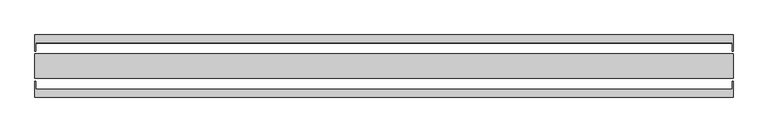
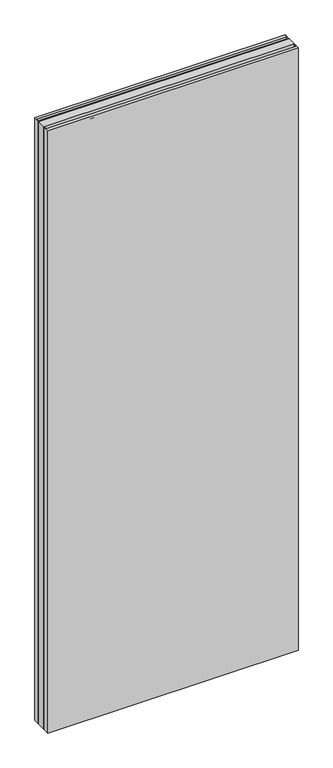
"""IFC4 building model written with IfcOpenShell, lengths in millimetres: plate geometry, 22_IM_VNS_wandpaneel_dicht : 22_IM_VNS_54_AA."""

import ifcopenshell
import ifcopenshell.guid

model = None  # the IFC model being written
_history = None  # IfcOwnerHistory: only IFC2X3 demands one
_inside = {}  # id of a spatial element -> (the spatial element, [elements in it])
_under = {}  # id of a project, library or spatial element -> (it, [spatial elements below it])
_declared = {}  # id of a project -> (the project, [libraries it declares])
_typed = {}  # id of a type object -> (the type object, [elements of that type])
_made_of = {}  # id of a material, layer set ... -> (it, [elements and type objects made of it])


def new_model(schema):
    """Start an empty IFC model of exactly this schema.

    Asked for "IFC4X3", IfcOpenShell would pick the latest addendum, in which some entities
    have other attributes; the version numbers below select the first issue.
    IFC2X3 requires an IfcOwnerHistory on every rooted entity: one is made here for all.
    """
    global model, _history
    if schema == "IFC4X3":
        model = ifcopenshell.file(schema_version=(4, 3, 0, 0))
    else:
        model = ifcopenshell.file(schema=schema)
    _inside.clear()
    _under.clear()
    _declared.clear()
    _typed.clear()
    _made_of.clear()
    _history = None
    if model.schema == "IFC2X3":
        org = make("IfcOrganization", Name="unknown")
        user = make(
            "IfcPersonAndOrganization",
            ThePerson=make("IfcPerson", FamilyName="unknown"),
            TheOrganization=org,
        )
        app = make(
            "IfcApplication",
            ApplicationDeveloper=org,
            Version="unknown",
            ApplicationFullName="unknown",
            ApplicationIdentifier="unknown",
        )
        _history = make(
            "IfcOwnerHistory",
            OwningUser=user,
            OwningApplication=app,
            ChangeAction="ADDED",
            CreationDate=0,
        )
    return model


def make(cls, **values):
    """One entity of the class cls with the attributes given. An attribute that is None is left unset."""
    return model.create_entity(
        cls, **{name: value for name, value in values.items() if value is not None}
    )


def rooted(cls, **values):
    """An entity with a GlobalId (a new one), such as an element, a storey or a relation."""
    return make(cls, GlobalId=ifcopenshell.guid.new(), OwnerHistory=_history, **values)


def si_unit(unit_type, name, prefix=None):
    """IfcSIUnit, for example si_unit("LENGTHUNIT", "METRE", prefix="MILLI")."""
    return make("IfcSIUnit", UnitType=unit_type, Prefix=prefix, Name=name)


def assignment(units):
    """IfcUnitAssignment: the units of a project."""
    return None if units is None else make("IfcUnitAssignment", Units=units)


def point(xyz):
    """IfcCartesianPoint."""
    return None if xyz is None else make("IfcCartesianPoint", Coordinates=xyz)


def direction(xyz):
    """IfcDirection."""
    return None if xyz is None else make("IfcDirection", DirectionRatios=xyz)


def frame(location, z_axis=None, x_axis=None):
    """IfcAxis2Placement3D, a coordinate frame: its origin and axes. An axis left out is left unset."""
    return make(
        "IfcAxis2Placement3D",
        Location=point(location),
        Axis=direction(z_axis),
        RefDirection=direction(x_axis),
    )


def origin():
    """The frame at (0, 0, 0) with its axes left unset."""
    return frame((0.0, 0.0, 0.0))


def origin_with_axes():
    """The frame at (0, 0, 0) with the z axis (0, 0, 1) and the x axis (1, 0, 0) written out."""
    return frame((0.0, 0.0, 0.0), z_axis=(0.0, 0.0, 1.0), x_axis=(1.0, 0.0, 0.0))


def place(relative_to, where):
    """IfcLocalPlacement: puts the frame where relative to a parent placement (None: the world)."""
    return make(
        "IfcLocalPlacement", PlacementRelTo=relative_to, RelativePlacement=where
    )


def context(
    kind, dimensions, precision=None, world=None, true_north=None, identifier=None
):
    """IfcGeometricRepresentationContext, for example the 3D "Model" context."""
    return make(
        "IfcGeometricRepresentationContext",
        ContextIdentifier=identifier,
        ContextType=kind,
        CoordinateSpaceDimension=dimensions,
        Precision=precision,
        WorldCoordinateSystem=world,
        TrueNorth=true_north,
    )


def project(units=None, contexts=None):
    """IfcProject with its units and contexts."""
    return rooted(
        "IfcProject",
        Name="project",
        RepresentationContexts=contexts,
        UnitsInContext=assignment(units),
    )


def spatial(cls, under=None, at=None, **own):
    """A site, building, storey or space (cls), placed at a placement, below another one or the project."""
    s = rooted(cls, ObjectPlacement=at, **own)
    if under is not None:
        _under.setdefault(under.id(), (under, []))[1].append(s)
    return s


def polyline(points):
    """IfcPolyline through the points."""
    return make("IfcPolyline", Points=[point(p) for p in points])


def outline(outer, holes=None, kind="AREA"):
    """IfcArbitraryClosedProfileDef: a profile drawn as a closed curve; with holes, ...WithVoids."""
    if holes is None:
        return make("IfcArbitraryClosedProfileDef", ProfileType=kind, OuterCurve=outer)
    return make(
        "IfcArbitraryProfileDefWithVoids",
        ProfileType=kind,
        OuterCurve=outer,
        InnerCurves=holes,
    )


def extrude(swept, where, along, depth):
    """IfcExtrudedAreaSolid: the profile swept, set in the frame where, extruded along a direction by depth."""
    return make(
        "IfcExtrudedAreaSolid",
        SweptArea=swept,
        Position=where,
        ExtrudedDirection=direction(along),
        Depth=depth,
    )


def faces_of(points, faces, orient=None, outer=None):
    """IfcFace entities. A face is a list of loops; a loop is a list of indices into points, from 0.

    orient and outer hold one flag for each loop. By default every Orientation is true, the
    first loop of a face is its IfcFaceOuterBound and the others are IfcFaceBound.
    """
    made = []
    for i, loops in enumerate(faces):
        bounds = []
        for j, loop in enumerate(loops):
            is_outer = j == 0 if outer is None else outer[i][j]
            bounds.append(
                make(
                    "IfcFaceOuterBound" if is_outer else "IfcFaceBound",
                    Bound=make("IfcPolyLoop", Polygon=[points[k] for k in loop]),
                    Orientation=True if orient is None else orient[i][j],
                )
            )
        made.append(make("IfcFace", Bounds=bounds))
    return made


def faceted_brep(points, faces, orient=None, outer=None, voids=None):
    """IfcFacetedBrep: a solid bounded by flat faces; with voids (closed shells), ...WithVoids."""
    shared = [point(p) for p in points]
    hull = make("IfcClosedShell", CfsFaces=faces_of(shared, faces, orient, outer))
    if voids is None:
        return make("IfcFacetedBrep", Outer=hull)
    return make(
        "IfcFacetedBrepWithVoids",
        Outer=hull,
        Voids=[
            make(cls, CfsFaces=faces_of(shared, fs, o, b)) for cls, fs, o, b in voids
        ],
    )


def shape(context_of_items, identifier, shape_type, items):
    """IfcShapeRepresentation: the items that make up one representation, for example the "Body"."""
    return make(
        "IfcShapeRepresentation",
        ContextOfItems=context_of_items,
        RepresentationIdentifier=identifier,
        RepresentationType=shape_type,
        Items=items,
    )


def source(mapping_origin, context_of_items, identifier, shape_type, items):
    """IfcRepresentationMap: a shape defined once, which mapped items show again and again."""
    return make(
        "IfcRepresentationMap",
        MappingOrigin=mapping_origin,
        MappedRepresentation=shape(context_of_items, identifier, shape_type, items),
    )


def transform(
    local_origin,
    x_axis=None,
    y_axis=None,
    z_axis=None,
    scale=None,
    scale2=None,
    scale3=None,
    uniform=True,
):
    """IfcCartesianTransformationOperator3D, or its non-uniform kind. x_axis, y_axis, z_axis: its Axis1, 2, 3."""
    if uniform:
        return make(
            "IfcCartesianTransformationOperator3D",
            Axis1=direction(x_axis),
            Axis2=direction(y_axis),
            LocalOrigin=point(local_origin),
            Scale=scale,
            Axis3=direction(z_axis),
        )
    return make(
        "IfcCartesianTransformationOperator3DnonUniform",
        Axis1=direction(x_axis),
        Axis2=direction(y_axis),
        LocalOrigin=point(local_origin),
        Scale=scale,
        Axis3=direction(z_axis),
        Scale2=scale2,
        Scale3=scale3,
    )


def mapped(mapping_source, mapping_target):
    """IfcMappedItem: shows the shape of a source again, moved by a transform."""
    return make(
        "IfcMappedItem", MappingSource=mapping_source, MappingTarget=mapping_target
    )


def made_of(thing, what):
    """Note that an element or type object is made of a material, layer set ...; save() writes the relation."""
    if what is not None:
        _made_of.setdefault(what.id(), (what, []))[1].append(thing)
    return thing


def element(
    cls,
    number,
    at=None,
    inside=None,
    cuts=None,
    type_object=None,
    material=None,
    context=None,
    identifier="Body",
    shape_type=None,
    held_by="IfcProductDefinitionShape",
    body=None,
    shapes=None,
    **own,
):
    """One element of the class cls, such as IfcWall. Its Tag is "e" and its number.

    at: its placement. inside: the storey or other place that contains it. cuts: it is an
    opening in that element (IfcRelVoidsElement). A single representation is given by context,
    identifier, shape_type and body (its items); several are given by shapes. held_by: the class
    of the entity that holds the representations. save() writes the other relations.
    """
    e = rooted(cls, Tag="e%d" % number, ObjectPlacement=at, **own)
    if body is not None:
        shapes = [shape(context, identifier, shape_type, body)]
    if shapes is not None:
        e.Representation = make(held_by, Representations=shapes)
    if inside is not None:
        _inside.setdefault(inside.id(), (inside, []))[1].append(e)
    if cuts is not None:
        rooted(
            "IfcRelVoidsElement", RelatingBuildingElement=cuts, RelatedOpeningElement=e
        )
    if type_object is not None:
        _typed.setdefault(type_object.id(), (type_object, []))[1].append(e)
    return made_of(e, material)


def aggregate(whole, parts):
    """IfcRelAggregates: a whole, such as a stair, and the parts it consists of."""
    return rooted("IfcRelAggregates", RelatingObject=whole, RelatedObjects=parts)


def save(model, path):
    """Write the relations noted so far, then the file.

    IfcRelAggregates (storeys below a building ...), IfcRelContainedInSpatialStructure (elements
    in a storey), IfcRelDefinesByType, IfcRelAssociatesMaterial and IfcRelDeclares: one each for
    every whole, place, type object, material and project.
    """
    for whole, parts in _under.values():
        aggregate(whole, parts)
    for where, things in _inside.values():
        rooted(
            "IfcRelContainedInSpatialStructure",
            RelatedElements=things,
            RelatingStructure=where,
        )
    for kind, things in _typed.values():
        rooted("IfcRelDefinesByType", RelatedObjects=things, RelatingType=kind)
    for what, things in _made_of.values():
        rooted("IfcRelAssociatesMaterial", RelatedObjects=things, RelatingMaterial=what)
    for by, libraries in _declared.values():
        rooted("IfcRelDeclares", RelatingContext=by, RelatedDefinitions=libraries)
    model.write(path)


def plate_4faec389(model_context):
    return source(origin(), model_context, "Body", "SolidModel", [
        faceted_brep([(-570.0, 24.5, 2902.0), (-569.0, 24.5, 2902.0), (-569.0, 38.0, 2902.0), (569.0, 38.0, 2902.0), (569.0, 24.5, 2902.0), (570.0, 24.5, 2902.0), (570.0, 51.0, 2902.0), (-570.0, 51.0, 2902.0), (-570.0, 51.0, 0.0), (570.0, 51.0, 0.0), (570.0, 24.5, 0.0), (569.0, 24.5, 0.0), (569.0, 38.0, 0.0), (-569.0, 38.0, 0.0), (-569.0, 24.5, 0.0), (-570.0, 24.5, 0.0), (-569.0, 38.0, 9.9865245), (-569.0, 39.0, 9.9865245), (-569.0, 39.0, 0.9865245), (-569.0, 50.0, 0.9865245), (-569.0, 50.0, 2901.0134755), (-569.0, 39.0, 2901.0134755), (-569.0, 39.0, 2892.0134755), (-569.0, 38.0, 2892.0134755), (569.0, 50.0, 0.9865245), (569.0, 50.0, 2901.0134755), (569.0, 38.0, 2892.0134755), (569.0, 39.0, 2892.0134755), (569.0, 39.0, 2901.0134755), (569.0, 39.0, 0.9865245), (569.0, 39.0, 9.9865245), (569.0, 38.0, 9.9865245)], [[[0, 1, 2, 3, 4, 5, 6, 7]], [[8, 9, 10, 11, 12, 13, 14, 15]], [[1, 0, 15, 14]], [[1, 14, 13, 16, 17, 18, 19, 20, 21, 22, 23, 2]], [[20, 19, 24, 25]], [[11, 4, 3, 26, 27, 28, 25, 24, 29, 30, 31, 12]], [[5, 4, 11, 10]], [[6, 5, 10, 9]], [[7, 6, 9, 8]], [[8, 15, 0, 7]], [[3, 2, 23, 26]], [[26, 23, 22, 27]], [[27, 22, 21, 28]], [[28, 21, 20, 25]], [[18, 29, 24, 19]], [[29, 18, 17, 30]], [[30, 17, 16, 31]], [[13, 12, 31, 16]]]),
        faceted_brep([(-570.0, -51.0, 2902.0), (570.0, -51.0, 2902.0), (570.0, -24.5, 2902.0), (569.0, -24.5, 2902.0), (569.0, -38.0, 2902.0), (-569.0, -38.0, 2902.0), (-569.0, -24.5, 2902.0), (-570.0, -24.5, 2902.0), (-570.0, -24.5, 0.0), (-569.0, -24.5, 0.0), (-569.0, -38.0, 0.0), (569.0, -38.0, 0.0), (569.0, -24.5, 0.0), (570.0, -24.5, 0.0), (570.0, -51.0, 0.0), (-570.0, -51.0, 0.0), (569.0, -38.0, 9.9865245), (569.0, -39.0, 9.9865245), (569.0, -39.0, 0.9865245), (569.0, -50.0, 0.9865245), (569.0, -50.0, 2901.0134755), (569.0, -39.0, 2901.0134755), (569.0, -39.0, 2892.0134755), (569.0, -38.0, 2892.0134755), (-569.0, -50.0, 0.9865245), (-569.0, -50.0, 2901.0134755), (-569.0, -38.0, 2892.0134755), (-569.0, -39.0, 2892.0134755), (-569.0, -39.0, 2901.0134755), (-569.0, -39.0, 0.9865245), (-569.0, -39.0, 9.9865245), (-569.0, -38.0, 9.9865245)], [[[0, 1, 2, 3, 4, 5, 6, 7]], [[8, 9, 10, 11, 12, 13, 14, 15]], [[0, 7, 8, 15]], [[1, 0, 15, 14]], [[2, 1, 14, 13]], [[3, 2, 13, 12]], [[3, 12, 11, 16, 17, 18, 19, 20, 21, 22, 23, 4]], [[20, 19, 24, 25]], [[9, 6, 5, 26, 27, 28, 25, 24, 29, 30, 31, 10]], [[7, 6, 9, 8]], [[28, 21, 20, 25]], [[21, 28, 27, 22]], [[22, 27, 26, 23]], [[5, 4, 23, 26]], [[11, 10, 31, 16]], [[16, 31, 30, 17]], [[17, 30, 29, 18]], [[18, 29, 24, 19]]]),
        extrude(outline(polyline([(570.0, 20.0), (570.0, -20.0), (-570.0, -20.0), (-570.0, 20.0), (570.0, 20.0)])), origin_with_axes(), (0.0, 0.0, 1.0), 2902.0),
        extrude(outline(polyline([(567.0, 50.0), (567.0, 37.5), (-567.0, 37.5), (-567.0, 50.0), (567.0, 50.0)])), frame((0.0, 0.0, 11.0), z_axis=(0.0, 0.0, 1.0), x_axis=(1.0, 0.0, 0.0)), (0.0, 0.0, 1.0), 2880.0),
        extrude(outline(polyline([(-567.0, -37.5), (567.0, -37.5), (567.0, -50.0), (-567.0, -50.0), (-567.0, -37.5)])), frame((0.0, 0.0, 11.0), z_axis=(0.0, 0.0, 1.0), x_axis=(1.0, 0.0, 0.0)), (0.0, 0.0, 1.0), 2880.0),
    ])


if __name__ == "__main__":
    model = new_model("IFC4")
    model_context = context("Model", 3, world=origin())
    ifc_project = project(units=[si_unit("LENGTHUNIT", "METRE", prefix="MILLI")], contexts=[model_context])
    site = spatial("IfcSite", under=ifc_project)
    building = spatial("IfcBuilding", under=site)
    placement = place(None, origin())
    plate_shape = plate_4faec389(model_context)
    element("IfcPlate", 1, ObjectType="22_IM_VNS_wandpaneel_dicht : 22_IM_VNS_54_AA", at=placement, inside=building, context=model_context, shape_type="MappedRepresentation", body=[
        mapped(plate_shape, transform((0.0, 0.0, 0.0), x_axis=(1.0, 0.0, 0.0), y_axis=(0.0, 1.0, 0.0), z_axis=(0.0, 0.0, 1.0))),
    ])
    save(model, "model.ifc")
